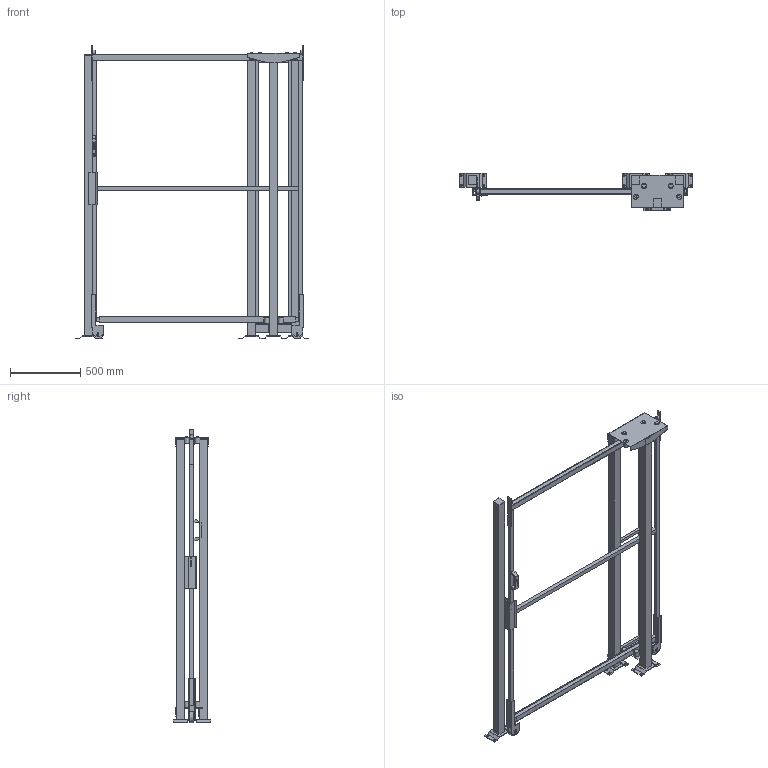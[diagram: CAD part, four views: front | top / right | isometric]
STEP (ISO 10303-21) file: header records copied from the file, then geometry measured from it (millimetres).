
FILE_DESCRIPTION(/* description */ (''),/* implementation_level */ '2;1');
FILE_NAME(/* name */ 'C:\SafeGuarding\ELABORATI\KLADKA_2025-03-18-12-58-24.stp',/* time_stamp */ '2025-03-18T12:58:29+01:00',/* author */ ('admin'),/* organization */ (''),/* preprocessor_version */ 'ST-DEVELOPER v18.1',/* originating_system */ 'AutoCAD Mechanical',/* authorisation */ '');
FILE_SCHEMA (('AUTOMOTIVE_DESIGN { 1 0 10303 214 3 1 1 }'));
Length unit declared in the file: millimetre
Products named in the file (4): Product; R_VFPA.REPE30.15001900; R_VFPA.REPE20.02501900; P_VFMA.V260SDU.2020
Assembly tree (6 placements, depth 2):
  Product
    R_VFPA.REPE30.15001900
    R_VFPA.REPE20.02501900
    P_VFMA.V260SDU.2020  x4
Bounding box: 1662.02 x 264.1 x 2090.02 mm (x, y, z)
Volume: 40839254.2 mm3; surface area: 4971275.9 mm2
Topology: 54 solids, 65 shells, 505 faces, 1626 edges, 1693 vertices
Faces by surface type: plane 453, cylinder 50, sphere 2
Full cylindrical faces by diameter (mm): 9 x4, 11 x16, 13 x4, 30 x6, 36 x8, 80 x2
Entity records: 15046 total; most frequent: CARTESIAN_POINT 3356, DIRECTION 2306, ORIENTED_EDGE 1986, LINE 1048, VECTOR 1048, EDGE_CURVE 1042, VERTEX_POINT 734, AXIS2_PLACEMENT_3D 629
